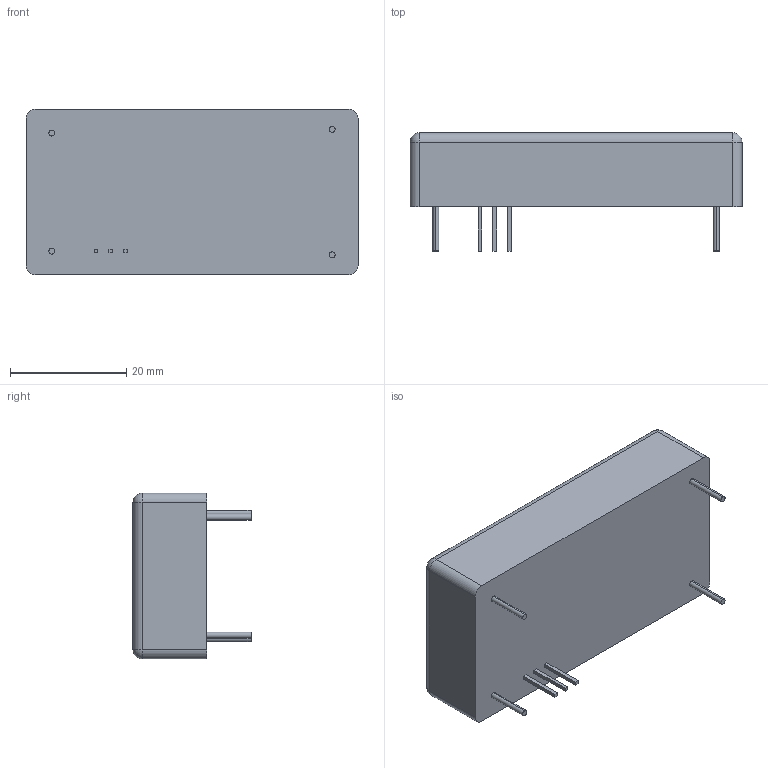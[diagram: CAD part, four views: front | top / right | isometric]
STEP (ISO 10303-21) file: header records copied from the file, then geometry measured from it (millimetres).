
FILE_DESCRIPTION (( 'STEP AP214' ), '1' );
FILE_NAME ('XP EMCO FS Smart - 4725V01.STEP', '2016-08-24T21:08:11', ( '' ), ( '' ), 'SwSTEP 2.0', 'SolidWorks 2014', '' );
FILE_SCHEMA (( 'AUTOMOTIVE_DESIGN' ));
Length unit declared in the file: inch
Products named in the file (1): XP EMCO FS Smart  - 4725V01
Bounding box: 57.15 x 20.32 x 28.57 mm (x, y, z)
Volume: 20575.1 mm3; surface area: 5554.7 mm2
Topology: 1 solids, 1 shells, 65 faces, 148 edges, 92 vertices
Faces by surface type: plane 41, cylinder 20, sphere 4
Entity records: 2511 total; most frequent: DIRECTION 316, CARTESIAN_POINT 302, ORIENTED_EDGE 288, EDGE_CURVE 144, AXIS2_PLACEMENT_3D 106, LINE 104, VECTOR 104, VERTEX_POINT 92
